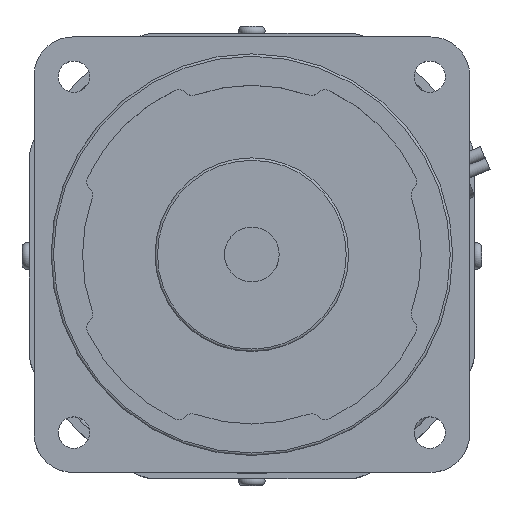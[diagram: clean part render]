
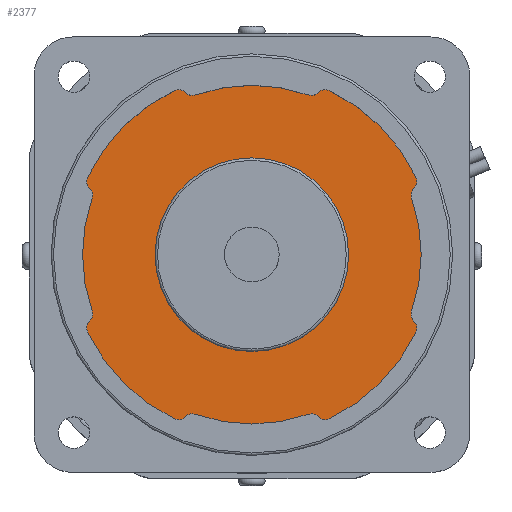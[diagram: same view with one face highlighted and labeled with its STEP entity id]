
A CAD part, top view. The second image highlights one B-rep face of the part: STEP entity #2377.
In plain terms, the highlighted planar face has unit normal (0, 0, 1).
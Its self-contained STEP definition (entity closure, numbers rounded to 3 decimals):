
#1058=CARTESIAN_POINT('',(20.0,0.,196.0));
#1059=VERTEX_POINT('',#1058);
#1060=CARTESIAN_POINT('',(0.,0.,196.0));
#1061=DIRECTION('',(0.0,0.0,-1.0));
#1062=DIRECTION('',(-1.0,0.0,0.0));
#1063=AXIS2_PLACEMENT_3D('',#1060,#1061,#1062);
#1064=CIRCLE('',#1063,20.0);
#1065=EDGE_CURVE('',#1059,#1059,#1064,.T.);
#1088=CARTESIAN_POINT('',(-13.722,-33.501,196.));
#1089=VERTEX_POINT('',#1088);
#1105=CARTESIAN_POINT('',(-11.626,-33.013,196.0));
#1106=VERTEX_POINT('',#1105);
#1113=CARTESIAN_POINT('',(-12.291,-34.899,196.0));
#1114=DIRECTION('',(0.0,0.0,-1.0));
#1115=DIRECTION('',(-0.408,0.913,0.0));
#1116=AXIS2_PLACEMENT_3D('',#1113,#1114,#1115);
#1117=CIRCLE('',#1116,2.0);
#1118=EDGE_CURVE('',#1106,#1089,#1117,.F.);
#1138=CARTESIAN_POINT('',(11.626,-33.013,196.0));
#1139=VERTEX_POINT('',#1138);
#1146=CARTESIAN_POINT('',(0.,0.,196.0));
#1147=DIRECTION('',(0.,0.,1.0));
#1148=DIRECTION('',(-0.383,-0.924,0.));
#1149=AXIS2_PLACEMENT_3D('',#1146,#1147,#1148);
#1150=CIRCLE('',#1149,35.0);
#1151=EDGE_CURVE('',#1106,#1139,#1150,.T.);
#1161=CARTESIAN_POINT('',(13.722,-33.501,196.));
#1162=VERTEX_POINT('',#1161);
#1171=CARTESIAN_POINT('',(12.291,-34.899,196.0));
#1172=DIRECTION('',(0.0,0.0,-1.0));
#1173=DIRECTION('',(0.408,0.913,0.0));
#1174=AXIS2_PLACEMENT_3D('',#1171,#1172,#1173);
#1175=CIRCLE('',#1174,2.0);
#1176=EDGE_CURVE('',#1162,#1139,#1175,.F.);
#1203=CARTESIAN_POINT('',(16.006,-33.913,196.0));
#1204=VERTEX_POINT('',#1203);
#1211=CARTESIAN_POINT('',(15.152,-32.104,196.0));
#1212=DIRECTION('',(0.0,0.0,1.0));
#1213=DIRECTION('',(0.715,0.699,0.0));
#1214=AXIS2_PLACEMENT_3D('',#1211,#1212,#1213);
#1215=CIRCLE('',#1214,2.);
#1216=EDGE_CURVE('',#1162,#1204,#1215,.T.);
#1227=CARTESIAN_POINT('',(33.913,-16.006,196.0));
#1228=VERTEX_POINT('',#1227);
#1237=CARTESIAN_POINT('',(0.,0.,196.0));
#1238=DIRECTION('',(0.,0.,1.0));
#1239=DIRECTION('',(0.383,-0.924,0.));
#1240=AXIS2_PLACEMENT_3D('',#1237,#1238,#1239);
#1241=CIRCLE('',#1240,37.5);
#1242=EDGE_CURVE('',#1204,#1228,#1241,.T.);
#1269=CARTESIAN_POINT('',(33.501,-13.722,196.));
#1270=VERTEX_POINT('',#1269);
#1277=CARTESIAN_POINT('',(32.104,-15.152,196.0));
#1278=DIRECTION('',(0.0,0.0,1.0));
#1279=DIRECTION('',(-0.904,0.427,0.0));
#1280=AXIS2_PLACEMENT_3D('',#1277,#1278,#1279);
#1281=CIRCLE('',#1280,2.);
#1282=EDGE_CURVE('',#1228,#1270,#1281,.T.);
#1303=CARTESIAN_POINT('',(33.013,-11.626,196.0));
#1304=VERTEX_POINT('',#1303);
#1311=CARTESIAN_POINT('',(34.899,-12.291,196.0));
#1312=DIRECTION('',(0.0,0.0,-1.0));
#1313=DIRECTION('',(-0.913,-0.408,0.0));
#1314=AXIS2_PLACEMENT_3D('',#1311,#1312,#1313);
#1315=CIRCLE('',#1314,2.0);
#1316=EDGE_CURVE('',#1304,#1270,#1315,.F.);
#1326=CARTESIAN_POINT('',(33.013,11.626,196.0));
#1327=VERTEX_POINT('',#1326);
#1336=CARTESIAN_POINT('',(0.,0.,196.0));
#1337=DIRECTION('',(0.,0.,1.0));
#1338=DIRECTION('',(0.924,-0.383,0.));
#1339=AXIS2_PLACEMENT_3D('',#1336,#1337,#1338);
#1340=CIRCLE('',#1339,35.);
#1341=EDGE_CURVE('',#1304,#1327,#1340,.T.);
#1359=CARTESIAN_POINT('',(33.501,13.722,196.));
#1360=VERTEX_POINT('',#1359);
#1369=CARTESIAN_POINT('',(34.899,12.291,196.0));
#1370=DIRECTION('',(0.0,0.0,-1.0));
#1371=DIRECTION('',(-0.913,0.408,0.0));
#1372=AXIS2_PLACEMENT_3D('',#1369,#1370,#1371);
#1373=CIRCLE('',#1372,2.0);
#1374=EDGE_CURVE('',#1360,#1327,#1373,.F.);
#1401=CARTESIAN_POINT('',(33.913,16.006,196.0));
#1402=VERTEX_POINT('',#1401);
#1409=CARTESIAN_POINT('',(32.104,15.152,196.0));
#1410=DIRECTION('',(0.0,0.0,1.0));
#1411=DIRECTION('',(-0.699,0.715,0.0));
#1412=AXIS2_PLACEMENT_3D('',#1409,#1410,#1411);
#1413=CIRCLE('',#1412,2.);
#1414=EDGE_CURVE('',#1360,#1402,#1413,.T.);
#1425=CARTESIAN_POINT('',(16.006,33.913,196.0));
#1426=VERTEX_POINT('',#1425);
#1435=CARTESIAN_POINT('',(0.,0.,196.0));
#1436=DIRECTION('',(0.,0.,1.0));
#1437=DIRECTION('',(0.924,0.383,0.));
#1438=AXIS2_PLACEMENT_3D('',#1435,#1436,#1437);
#1439=CIRCLE('',#1438,37.5);
#1440=EDGE_CURVE('',#1402,#1426,#1439,.T.);
#1467=CARTESIAN_POINT('',(13.722,33.501,196.));
#1468=VERTEX_POINT('',#1467);
#1475=CARTESIAN_POINT('',(15.152,32.104,196.0));
#1476=DIRECTION('',(0.0,0.0,1.0));
#1477=DIRECTION('',(-0.427,-0.904,0.0));
#1478=AXIS2_PLACEMENT_3D('',#1475,#1476,#1477);
#1479=CIRCLE('',#1478,2.);
#1480=EDGE_CURVE('',#1426,#1468,#1479,.T.);
#1501=CARTESIAN_POINT('',(11.626,33.013,196.0));
#1502=VERTEX_POINT('',#1501);
#1509=CARTESIAN_POINT('',(12.291,34.899,196.0));
#1510=DIRECTION('',(0.0,0.0,-1.0));
#1511=DIRECTION('',(0.408,-0.913,0.0));
#1512=AXIS2_PLACEMENT_3D('',#1509,#1510,#1511);
#1513=CIRCLE('',#1512,2.0);
#1514=EDGE_CURVE('',#1502,#1468,#1513,.F.);
#1524=CARTESIAN_POINT('',(-11.626,33.013,196.0));
#1525=VERTEX_POINT('',#1524);
#1534=CARTESIAN_POINT('',(0.,0.,196.0));
#1535=DIRECTION('',(0.,0.,1.0));
#1536=DIRECTION('',(0.383,0.924,0.));
#1537=AXIS2_PLACEMENT_3D('',#1534,#1535,#1536);
#1538=CIRCLE('',#1537,35.0);
#1539=EDGE_CURVE('',#1502,#1525,#1538,.T.);
#1557=CARTESIAN_POINT('',(-13.722,33.501,196.));
#1558=VERTEX_POINT('',#1557);
#1567=CARTESIAN_POINT('',(-12.291,34.899,196.0));
#1568=DIRECTION('',(0.0,0.0,-1.0));
#1569=DIRECTION('',(-0.408,-0.913,0.0));
#1570=AXIS2_PLACEMENT_3D('',#1567,#1568,#1569);
#1571=CIRCLE('',#1570,2.0);
#1572=EDGE_CURVE('',#1558,#1525,#1571,.F.);
#1599=CARTESIAN_POINT('',(-16.006,33.913,196.0));
#1600=VERTEX_POINT('',#1599);
#1607=CARTESIAN_POINT('',(-15.152,32.104,196.0));
#1608=DIRECTION('',(0.0,0.0,1.0));
#1609=DIRECTION('',(-0.715,-0.699,0.0));
#1610=AXIS2_PLACEMENT_3D('',#1607,#1608,#1609);
#1611=CIRCLE('',#1610,2.);
#1612=EDGE_CURVE('',#1558,#1600,#1611,.T.);
#1633=CARTESIAN_POINT('',(-33.913,16.006,196.0));
#1634=VERTEX_POINT('',#1633);
#1641=CARTESIAN_POINT('',(0.,0.,196.0));
#1642=DIRECTION('',(0.,0.,1.0));
#1643=DIRECTION('',(-0.383,0.924,0.));
#1644=AXIS2_PLACEMENT_3D('',#1641,#1642,#1643);
#1645=CIRCLE('',#1644,37.5);
#1646=EDGE_CURVE('',#1600,#1634,#1645,.T.);
#1665=CARTESIAN_POINT('',(-33.501,13.722,196.));
#1666=VERTEX_POINT('',#1665);
#1673=CARTESIAN_POINT('',(-32.104,15.152,196.0));
#1674=DIRECTION('',(0.0,0.0,1.0));
#1675=DIRECTION('',(0.904,-0.427,0.0));
#1676=AXIS2_PLACEMENT_3D('',#1673,#1674,#1675);
#1677=CIRCLE('',#1676,2.);
#1678=EDGE_CURVE('',#1634,#1666,#1677,.T.);
#1699=CARTESIAN_POINT('',(-33.013,11.626,196.0));
#1700=VERTEX_POINT('',#1699);
#1707=CARTESIAN_POINT('',(-34.899,12.291,196.0));
#1708=DIRECTION('',(0.0,0.0,-1.0));
#1709=DIRECTION('',(0.913,0.408,0.0));
#1710=AXIS2_PLACEMENT_3D('',#1707,#1708,#1709);
#1711=CIRCLE('',#1710,2.0);
#1712=EDGE_CURVE('',#1700,#1666,#1711,.F.);
#1722=CARTESIAN_POINT('',(-33.013,-11.626,196.0));
#1723=VERTEX_POINT('',#1722);
#1732=CARTESIAN_POINT('',(0.,0.,196.0));
#1733=DIRECTION('',(0.,0.,1.0));
#1734=DIRECTION('',(-0.924,0.383,0.));
#1735=AXIS2_PLACEMENT_3D('',#1732,#1733,#1734);
#1736=CIRCLE('',#1735,35.0);
#1737=EDGE_CURVE('',#1700,#1723,#1736,.T.);
#1755=CARTESIAN_POINT('',(-33.501,-13.722,196.));
#1756=VERTEX_POINT('',#1755);
#1765=CARTESIAN_POINT('',(-34.899,-12.291,196.0));
#1766=DIRECTION('',(0.0,0.0,-1.0));
#1767=DIRECTION('',(0.913,-0.408,0.0));
#1768=AXIS2_PLACEMENT_3D('',#1765,#1766,#1767);
#1769=CIRCLE('',#1768,2.0);
#1770=EDGE_CURVE('',#1756,#1723,#1769,.F.);
#1797=CARTESIAN_POINT('',(-33.913,-16.006,196.0));
#1798=VERTEX_POINT('',#1797);
#1805=CARTESIAN_POINT('',(-32.104,-15.152,196.0));
#1806=DIRECTION('',(0.0,0.0,1.0));
#1807=DIRECTION('',(0.699,-0.715,0.0));
#1808=AXIS2_PLACEMENT_3D('',#1805,#1806,#1807);
#1809=CIRCLE('',#1808,2.);
#1810=EDGE_CURVE('',#1756,#1798,#1809,.T.);
#1821=CARTESIAN_POINT('',(-16.006,-33.913,196.0));
#1822=VERTEX_POINT('',#1821);
#1831=CARTESIAN_POINT('',(0.,0.,196.0));
#1832=DIRECTION('',(0.,0.,1.0));
#1833=DIRECTION('',(-0.924,-0.383,0.));
#1834=AXIS2_PLACEMENT_3D('',#1831,#1832,#1833);
#1835=CIRCLE('',#1834,37.5);
#1836=EDGE_CURVE('',#1798,#1822,#1835,.T.);
#1862=CARTESIAN_POINT('',(-15.152,-32.104,196.0));
#1863=DIRECTION('',(0.0,0.0,1.0));
#1864=DIRECTION('',(0.427,0.904,0.0));
#1865=AXIS2_PLACEMENT_3D('',#1862,#1863,#1864);
#1866=CIRCLE('',#1865,2.);
#1867=EDGE_CURVE('',#1822,#1089,#1866,.T.);
#2343=CARTESIAN_POINT('',(0.,0.,196.0));
#2344=DIRECTION('',(0.0,0.0,1.0));
#2345=DIRECTION('',(1.0,0.0,0.0));
#2346=AXIS2_PLACEMENT_3D('',#2343,#2344,#2345);
#2347=PLANE('',#2346);
#2348=ORIENTED_EDGE('',*,*,#1867,.T.);
#2349=ORIENTED_EDGE('',*,*,#1118,.F.);
#2350=ORIENTED_EDGE('',*,*,#1151,.T.);
#2351=ORIENTED_EDGE('',*,*,#1176,.F.);
#2352=ORIENTED_EDGE('',*,*,#1216,.T.);
#2353=ORIENTED_EDGE('',*,*,#1242,.T.);
#2354=ORIENTED_EDGE('',*,*,#1282,.T.);
#2355=ORIENTED_EDGE('',*,*,#1316,.F.);
#2356=ORIENTED_EDGE('',*,*,#1341,.T.);
#2357=ORIENTED_EDGE('',*,*,#1374,.F.);
#2358=ORIENTED_EDGE('',*,*,#1414,.T.);
#2359=ORIENTED_EDGE('',*,*,#1440,.T.);
#2360=ORIENTED_EDGE('',*,*,#1480,.T.);
#2361=ORIENTED_EDGE('',*,*,#1514,.F.);
#2362=ORIENTED_EDGE('',*,*,#1539,.T.);
#2363=ORIENTED_EDGE('',*,*,#1572,.F.);
#2364=ORIENTED_EDGE('',*,*,#1612,.T.);
#2365=ORIENTED_EDGE('',*,*,#1646,.T.);
#2366=ORIENTED_EDGE('',*,*,#1678,.T.);
#2367=ORIENTED_EDGE('',*,*,#1712,.F.);
#2368=ORIENTED_EDGE('',*,*,#1737,.T.);
#2369=ORIENTED_EDGE('',*,*,#1770,.F.);
#2370=ORIENTED_EDGE('',*,*,#1810,.T.);
#2371=ORIENTED_EDGE('',*,*,#1836,.T.);
#2372=EDGE_LOOP('',(#2348,#2349,#2350,#2351,#2352,#2353,#2354,#2355,#2356,#2357,#2358,#2359,#2360,#2361,#2362,#2363,#2364,#2365,#2366,#2367,#2368,#2369,#2370,#2371));
#2373=FACE_OUTER_BOUND('',#2372,.T.);
#2374=ORIENTED_EDGE('',*,*,#1065,.T.);
#2375=EDGE_LOOP('',(#2374));
#2376=FACE_BOUND('',#2375,.T.);
#2377=ADVANCED_FACE('',(#2373,#2376),#2347,.T.);
